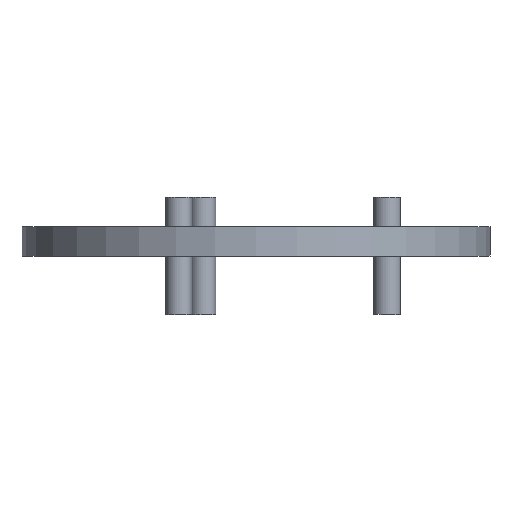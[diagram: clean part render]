
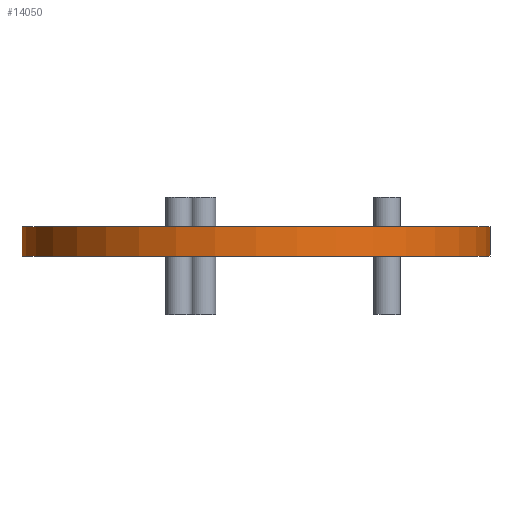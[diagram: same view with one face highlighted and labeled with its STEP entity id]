
A CAD part, front view. The second image highlights one B-rep face of the part: STEP entity #14050.
In plain terms, the highlighted cylindrical face has radius 80 mm (diameter 160 mm), a full revolution.
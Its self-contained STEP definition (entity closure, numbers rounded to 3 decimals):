
#2104=FACE_OUTER_BOUND('',#2862,.T.);
#2862=EDGE_LOOP('',(#11329,#11330,#11331,#11332));
#3692=LINE('',#63524,#4400);
#4400=VECTOR('',#17228,80.);
#4893=CIRCLE('',#14993,80.);
#4894=CIRCLE('',#14994,80.);
#6165=VERTEX_POINT('',#63521);
#6166=VERTEX_POINT('',#63523);
#8230=EDGE_CURVE('',#6165,#6165,#4893,.T.);
#8231=EDGE_CURVE('',#6165,#6166,#3692,.T.);
#8232=EDGE_CURVE('',#6166,#6166,#4894,.T.);
#11329=ORIENTED_EDGE('',*,*,#8230,.F.);
#11330=ORIENTED_EDGE('',*,*,#8231,.T.);
#11331=ORIENTED_EDGE('',*,*,#8232,.F.);
#11332=ORIENTED_EDGE('',*,*,#8231,.F.);
#13412=CYLINDRICAL_SURFACE('',#14992,80.);
#14050=ADVANCED_FACE('',(#2104),#13412,.T.);
#14992=AXIS2_PLACEMENT_3D('',#63520,#17224,#17225);
#14993=AXIS2_PLACEMENT_3D('',#63522,#17226,#17227);
#14994=AXIS2_PLACEMENT_3D('',#63525,#17229,#17230);
#17224=DIRECTION('center_axis',(0.,0.,-1.));
#17225=DIRECTION('ref_axis',(-1.,0.,0.));
#17226=DIRECTION('center_axis',(0.,0.,-1.));
#17227=DIRECTION('ref_axis',(-1.,0.,0.));
#17228=DIRECTION('',(0.,0.,1.));
#17229=DIRECTION('center_axis',(0.,0.,1.));
#17230=DIRECTION('ref_axis',(-1.,0.,0.));
#63520=CARTESIAN_POINT('Origin',(0.,0.,10.));
#63521=CARTESIAN_POINT('',(80.,0.,0.));
#63522=CARTESIAN_POINT('Origin',(0.,0.,0.));
#63523=CARTESIAN_POINT('',(80.,0.,10.));
#63524=CARTESIAN_POINT('',(80.,0.,10.));
#63525=CARTESIAN_POINT('Origin',(0.,0.,10.));
